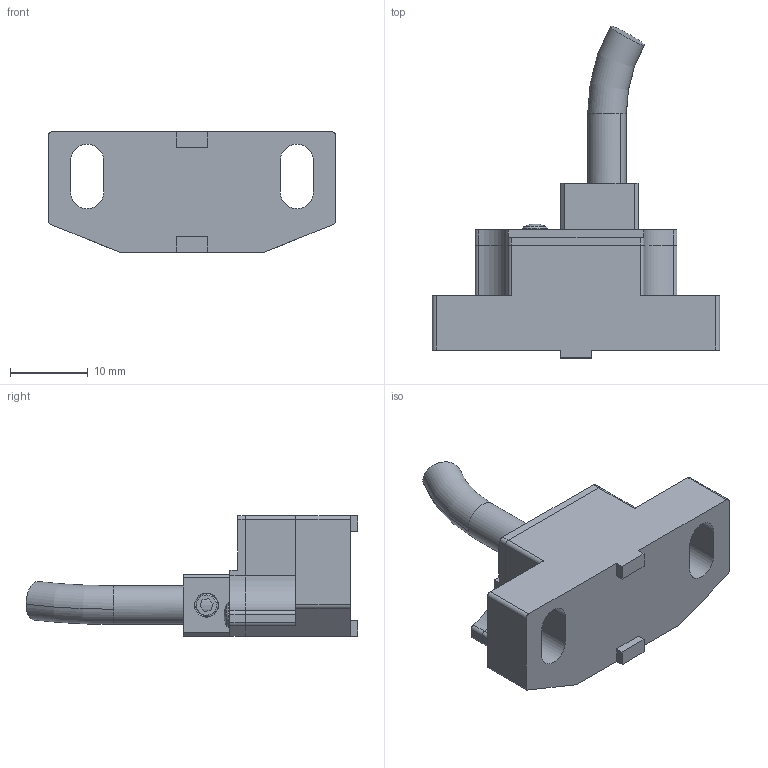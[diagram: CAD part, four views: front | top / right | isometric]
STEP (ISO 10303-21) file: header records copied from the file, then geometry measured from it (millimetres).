
FILE_DESCRIPTION (( 'STEP AP214' ), '1' );
FILE_NAME ('SE31_readhead_2_cab_axial.step', '2021-03-12T13:35:30', ( '' ), ( '' ), 'SwSTEP 2.0', 'SolidWorks 2020', '' );
FILE_SCHEMA (( 'AUTOMOTIVE_DESIGN' ));
Length unit declared in the file: millimetre
Products named in the file (1): SE31_readhead_2_cab_axial
Bounding box: 37 x 42.75 x 15.5 mm (x, y, z)
Surface area: 3827.5 mm2 (no closed solid volume)
Topology: 0 solids, 9 shells, 162 faces, 533 edges, 378 vertices
Faces by surface type: plane 92, cylinder 43, cone 18, bspline 7, torus 2
Entity records: 8196 total; most frequent: CARTESIAN_POINT 1687, DIRECTION 974, ORIENTED_EDGE 906, EDGE_CURVE 531, VERTEX_POINT 378, LINE 368, VECTOR 368, AXIS2_PLACEMENT_3D 303
